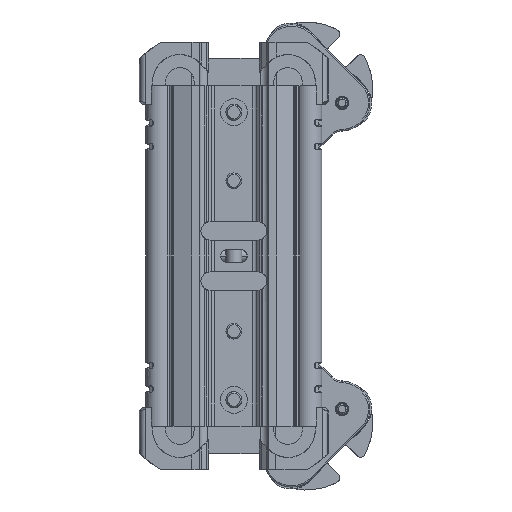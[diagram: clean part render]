
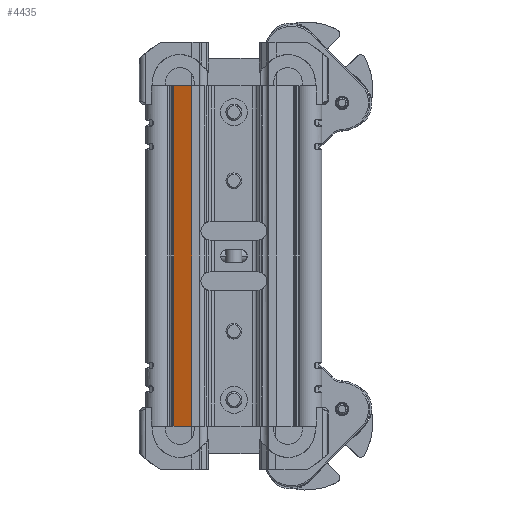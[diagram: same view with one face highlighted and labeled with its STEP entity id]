
A CAD part, front view. The second image highlights one B-rep face of the part: STEP entity #4435.
In plain terms, the highlighted planar face has unit normal (-0.342, -0.94, 0).
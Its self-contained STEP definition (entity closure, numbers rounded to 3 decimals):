
#51=DIRECTION('',(0.94,-0.342,0.));
#52=VECTOR('',#51,7.815);
#53=CARTESIAN_POINT('',(-23.344,-2.327,-64.5));
#54=LINE('',#53,#52);
#554=DIRECTION('',(0.94,-0.342,0.));
#555=VECTOR('',#554,7.815);
#556=CARTESIAN_POINT('',(-23.344,-2.327,64.5));
#557=LINE('',#556,#555);
#1546=DIRECTION('',(0.,0.,1.));
#1547=VECTOR('',#1546,129.);
#1548=CARTESIAN_POINT('',(-16.,-5.,-64.5));
#1549=LINE('',#1548,#1547);
#1550=DIRECTION('',(0.,0.,1.));
#1551=VECTOR('',#1550,129.);
#1552=CARTESIAN_POINT('',(-23.344,-2.327,-64.5));
#1553=LINE('',#1552,#1551);
#2253=CARTESIAN_POINT('',(-23.344,-2.327,-64.5));
#2255=VERTEX_POINT('',#2253);
#2256=CARTESIAN_POINT('',(-16.,-5.,-64.5));
#2257=VERTEX_POINT('',#2256);
#2307=CARTESIAN_POINT('',(-23.344,-2.327,64.5));
#2309=VERTEX_POINT('',#2307);
#2310=CARTESIAN_POINT('',(-16.,-5.,64.5));
#2311=VERTEX_POINT('',#2310);
#4423=CARTESIAN_POINT('',(-23.344,-2.327,-64.5));
#4424=DIRECTION('',(-0.342,-0.94,0.));
#4425=DIRECTION('',(0.94,-0.342,0.));
#4426=AXIS2_PLACEMENT_3D('',#4423,#4424,#4425);
#4427=PLANE('',#4426);
#4428=ORIENTED_EDGE('',*,*,#2808,.F.);
#4430=ORIENTED_EDGE('',*,*,#4429,.T.);
#4431=ORIENTED_EDGE('',*,*,#3168,.T.);
#4432=ORIENTED_EDGE('',*,*,#4416,.F.);
#4433=EDGE_LOOP('',(#4428,#4430,#4431,#4432));
#4434=FACE_OUTER_BOUND('',#4433,.F.);
#4435=ADVANCED_FACE('',(#4434),#4427,.T.);
#2808=EDGE_CURVE('',#2255,#2257,#54,.T.);
#3168=EDGE_CURVE('',#2309,#2311,#557,.T.);
#4416=EDGE_CURVE('',#2257,#2311,#1549,.T.);
#4429=EDGE_CURVE('',#2255,#2309,#1553,.T.);
